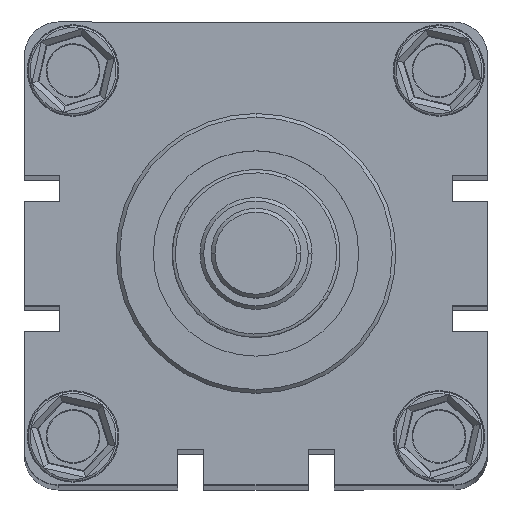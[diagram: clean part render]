
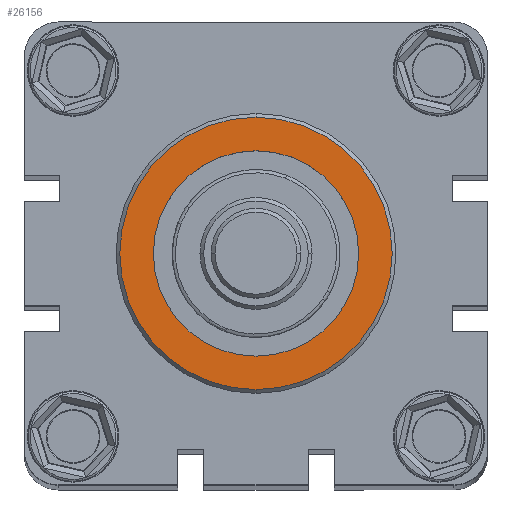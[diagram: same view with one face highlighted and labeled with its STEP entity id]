
A CAD part, top view. The second image highlights one B-rep face of the part: STEP entity #26156.
In plain terms, the highlighted planar face has unit normal (0, 0, 1).
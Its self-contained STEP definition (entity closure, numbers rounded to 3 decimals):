
#1373 = EDGE_CURVE ( 'NONE', #23477, #6458, #2053, .T. ) ;
#1957 = EDGE_CURVE ( 'NONE', #2561, #25812, #8464, .T. ) ;
#2053 = CIRCLE ( 'NONE', #17964, 36.475 ) ;
#2406 = FACE_BOUND ( 'NONE', #6934, .T. ) ;
#2561 = VERTEX_POINT ( 'NONE', #12091 ) ;
#3957 = CARTESIAN_POINT ( 'NONE',  ( 0., -36.475, 780. ) ) ;
#5118 = DIRECTION ( 'NONE',  ( 0., 0., 1. ) ) ;
#5285 = AXIS2_PLACEMENT_3D ( 'NONE', #13813, #22827, #18037 ) ;
#5617 = ORIENTED_EDGE ( 'NONE', *, *, #1957, .T. ) ;
#6458 = VERTEX_POINT ( 'NONE', #3957 ) ;
#6934 = EDGE_LOOP ( 'NONE', ( #26558, #5617 ) ) ;
#7289 = DIRECTION ( 'NONE',  ( -1., 0., 0. ) ) ;
#8464 = CIRCLE ( 'NONE', #5285, 27.5 ) ;
#8736 = EDGE_LOOP ( 'NONE', ( #10598, #17098 ) ) ;
#10058 = CARTESIAN_POINT ( 'NONE',  ( 0., 0., 780. ) ) ;
#10598 = ORIENTED_EDGE ( 'NONE', *, *, #26683, .F. ) ;
#11579 = CIRCLE ( 'NONE', #14385, 27.5 ) ;
#11741 = DIRECTION ( 'NONE',  ( 0., 0., -1. ) ) ;
#12091 = CARTESIAN_POINT ( 'NONE',  ( 27.5, 0., 780. ) ) ;
#12439 = CARTESIAN_POINT ( 'NONE',  ( -27.5, 0., 780. ) ) ;
#13813 = CARTESIAN_POINT ( 'NONE',  ( 0., 0., 780. ) ) ;
#13881 = FACE_OUTER_BOUND ( 'NONE', #8736, .T. ) ;
#14385 = AXIS2_PLACEMENT_3D ( 'NONE', #20502, #14880, #14997 ) ;
#14880 = DIRECTION ( 'NONE',  ( 0., 0., -1. ) ) ;
#14997 = DIRECTION ( 'NONE',  ( -1., 0., 0. ) ) ;
#16260 = AXIS2_PLACEMENT_3D ( 'NONE', #27973, #5118, #7289 ) ;
#17098 = ORIENTED_EDGE ( 'NONE', *, *, #1373, .F. ) ;
#17964 = AXIS2_PLACEMENT_3D ( 'NONE', #23092, #11741, #19490 ) ;
#18037 = DIRECTION ( 'NONE',  ( -1., 0., 0. ) ) ;
#19031 = PLANE ( 'NONE',  #16260 ) ;
#19490 = DIRECTION ( 'NONE',  ( 0., -1., 0. ) ) ;
#20475 = AXIS2_PLACEMENT_3D ( 'NONE', #10058, #28746, #28338 ) ;
#20502 = CARTESIAN_POINT ( 'NONE',  ( 0., 0., 780. ) ) ;
#22827 = DIRECTION ( 'NONE',  ( 0., 0., -1. ) ) ;
#23092 = CARTESIAN_POINT ( 'NONE',  ( 0., 0., 780. ) ) ;
#23477 = VERTEX_POINT ( 'NONE', #29587 ) ;
#24240 = CIRCLE ( 'NONE', #20475, 36.475 ) ;
#25812 = VERTEX_POINT ( 'NONE', #12439 ) ;
#26156 = ADVANCED_FACE ( 'NONE', ( #2406, #13881 ), #19031, .T. ) ;
#26558 = ORIENTED_EDGE ( 'NONE', *, *, #28085, .T. ) ;
#26683 = EDGE_CURVE ( 'NONE', #6458, #23477, #24240, .T. ) ;
#27973 = CARTESIAN_POINT ( 'NONE',  ( 0., 0., 780. ) ) ;
#28085 = EDGE_CURVE ( 'NONE', #25812, #2561, #11579, .T. ) ;
#28338 = DIRECTION ( 'NONE',  ( 0., -1., 0. ) ) ;
#28746 = DIRECTION ( 'NONE',  ( 0., 0., -1. ) ) ;
#29587 = CARTESIAN_POINT ( 'NONE',  ( 0., 36.475, 780. ) ) ;
